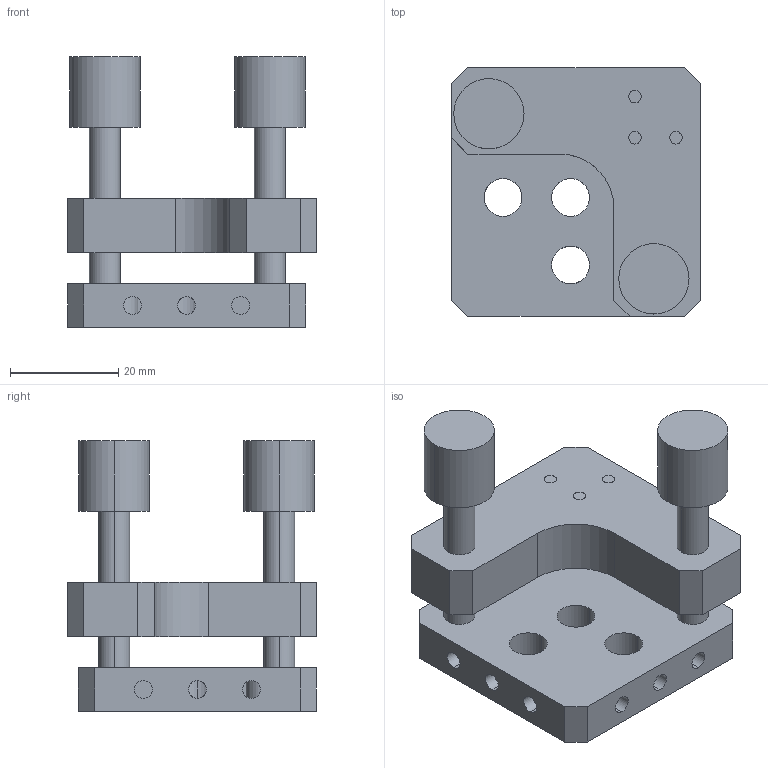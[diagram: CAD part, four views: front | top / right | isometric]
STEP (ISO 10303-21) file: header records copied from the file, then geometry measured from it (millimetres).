
FILE_DESCRIPTION (( 'STEP AP214' ), '1' );
FILE_NAME ('PQ220-5L.STEP', '2022-09-17T07:27:00', ( '' ), ( '' ), 'SwSTEP 2.0', 'SolidWorks 2017', '' );
FILE_SCHEMA (( 'AUTOMOTIVE_DESIGN' ));
Length unit declared in the file: millimetre
Products named in the file (1): PQ220-5L
Bounding box: 46 x 46 x 50 mm (x, y, z)
Surface area: 12282.5 mm2 (no closed solid volume)
Topology: 0 solids, 4 shells, 68 faces, 181 edges, 120 vertices
Faces by surface type: cylinder 41, plane 27
Entity records: 2277 total; most frequent: CARTESIAN_POINT 470, DIRECTION 393, ORIENTED_EDGE 338, EDGE_CURVE 181, AXIS2_PLACEMENT_3D 147, VERTEX_POINT 120, VECTOR 99, LINE 99
